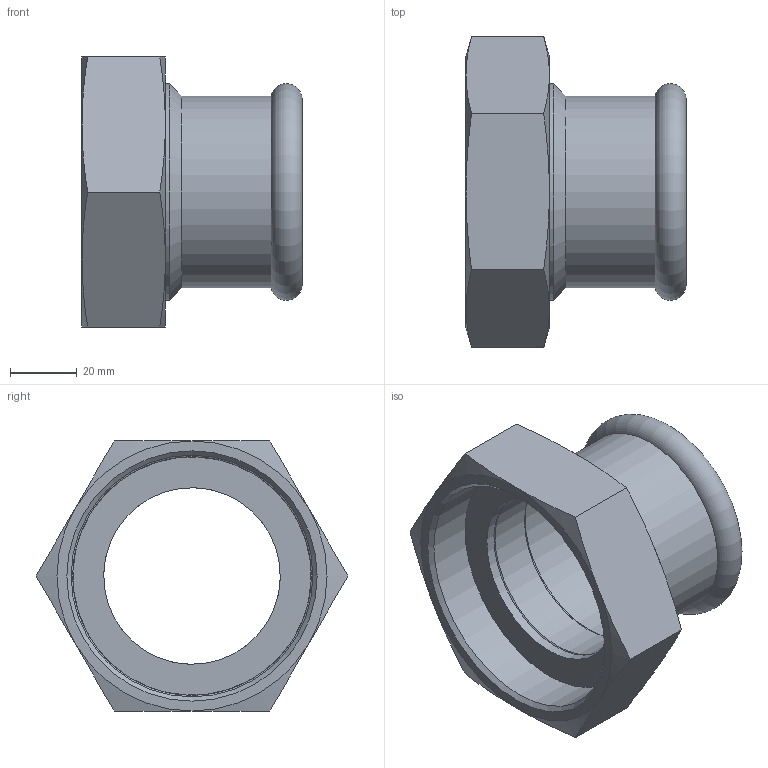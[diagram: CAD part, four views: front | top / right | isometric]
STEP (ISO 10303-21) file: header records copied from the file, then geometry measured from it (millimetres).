
FILE_DESCRIPTION(/* description */ ('MANICOTTO CON DADO 54x2"1/2'),/* implementation_level */ '2;1');
FILE_NAME(/* name */ 'R:\Disegni3D_Area_Manager\Steelpres.step\383_002_STEELPRES\383054022_Steelpres.stp',/* time_stamp */ '2022-10-21T16:06:22+02:00',/* author */ ('Vault'),/* organization */ ('Raccorderie metalliche s.p.a. '),/* preprocessor_version */ 'ST-DEVELOPER v18.1',/* originating_system */ 'Autodesk Inventor 2020',/* authorisation */ 'Raccorderie metalliche s.p.a. ');
FILE_SCHEMA (('AUTOMOTIVE_DESIGN { 1 0 10303 214 3 1 1 }'));
Length unit declared in the file: millimetre
Products named in the file (1): 383054022_Steelpres
Bounding box: 66 x 93.53 x 81 mm (x, y, z)
Volume: 76726.2 mm3; surface area: 38480.8 mm2
Topology: 1 solids, 1 shells, 52 faces, 135 edges, 91 vertices
Faces by surface type: cone 20, plane 14, cylinder 11, torus 7
Full cylindrical faces by diameter (mm): 53 x2, 54.5 x1, 54.7 x2, 57.5 x1, 65 x1, 65.5 x1, 71.5 x2, 72.5 x1
Entity records: 1670 total; most frequent: CARTESIAN_POINT 327, DIRECTION 303, ORIENTED_EDGE 270, AXIS2_PLACEMENT_3D 139, EDGE_CURVE 135, VERTEX_POINT 91, CIRCLE 86, EDGE_LOOP 60
